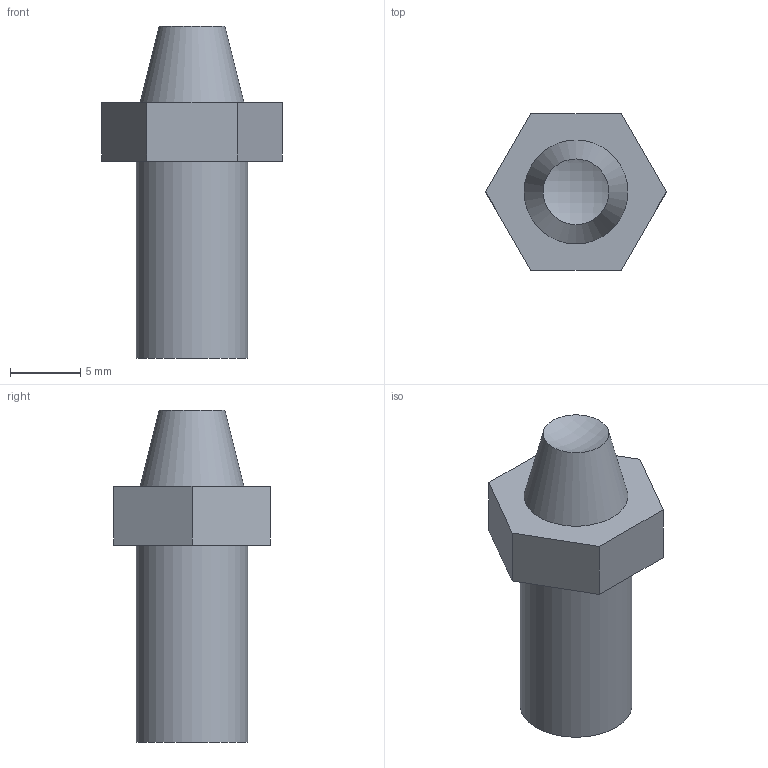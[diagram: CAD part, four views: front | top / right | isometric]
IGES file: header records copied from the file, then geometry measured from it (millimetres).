
Global section: file name: No Iges File Name specified; native system: AutoDesk Inventor R5.0; preprocessor: AutoDesk Inventor Iges Exporter R5.0; author: No Author specified; organization: No Organization specified; date: 20040109.204255; units: inch
Bounding box: 12.82 x 11.1 x 23.55 mm (x, y, z)
Surface area: 802.9 mm2 (no closed solid volume)
Topology: 0 solids, 0 shells, 12 faces, 46 edges, 44 vertices
Faces by surface type: plane 9, revolution 3
